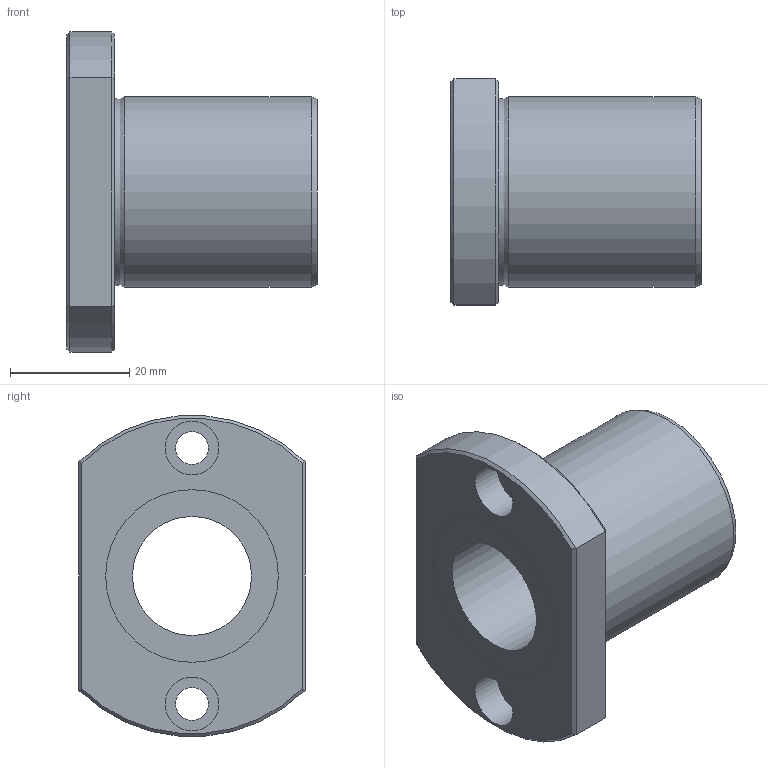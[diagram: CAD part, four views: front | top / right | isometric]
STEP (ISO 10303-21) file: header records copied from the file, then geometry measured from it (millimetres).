
FILE_DESCRIPTION((''),'2;1');
FILE_NAME('D:\製品 (図面)\カタログ用3D\リニアベアリング関連\STEP形式\LFT\LFT20.stp','2010-06-04T09:17:28',('Tsuchiya'),(''),'Autodesk Inventor 10','Autodesk Inventor 10','');
FILE_SCHEMA(('AUTOMOTIVE_DESIGN { 1 0 10303 214 1 1 1 1 }'));
Length unit declared in the file: millimetre
Products named in the file (1): LFT20
Bounding box: 42 x 38 x 53.8 mm (x, y, z)
Volume: 28100.9 mm3; surface area: 10653.3 mm2
Topology: 1 solids, 1 shells, 29 faces, 56 edges, 34 vertices
Faces by surface type: plane 13, cylinder 10, cone 4, torus 1, bspline 1
Full cylindrical faces by diameter (mm): 5.5 x2, 9 x2, 20 x1, 29 x2, 32 x1
Entity records: 787 total; most frequent: CARTESIAN_POINT 196, DIRECTION 122, ORIENTED_EDGE 92, AXIS2_PLACEMENT_3D 55, EDGE_LOOP 50, EDGE_CURVE 46, VERTEX_POINT 34, FACE_OUTER_BOUND 29
